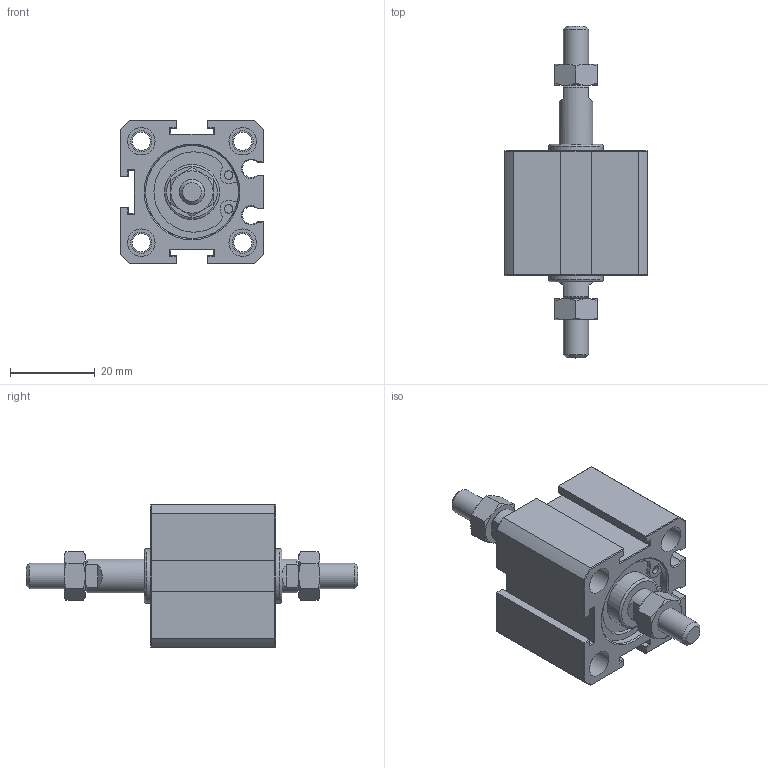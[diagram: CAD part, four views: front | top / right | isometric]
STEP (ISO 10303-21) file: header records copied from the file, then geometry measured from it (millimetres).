
FILE_DESCRIPTION(/* description */ (''),/* implementation_level */ '2;1');
FILE_NAME(/* name */ 'AJC-SW20X10W',/* time_stamp */ '2019-07-02T08:27:45+08:00',/* author */ ('JEFF HUANG'),/* organization */ ('TAIWAN AMAC CLAMP INDUSTRIAL CO., LTD.'),/* preprocessor_version */ 'ST-DEVELOPER v16.7',/* originating_system */ 'DEX',/* authorisation */ $);
FILE_SCHEMA (('AUTOMOTIVE_DESIGN {1 0 10303 214 3 1 1}'));
Length unit declared in the file: millimetre
Products named in the file (1): AJC-SW20X10W
Bounding box: 34 x 78.51 x 34 mm (x, y, z)
Volume: 28890.8 mm3; surface area: 11596.4 mm2
Topology: 1 solids, 1 shells, 263 faces, 575 edges, 346 vertices
Faces by surface type: plane 164, cylinder 53, cone 44, torus 2
Full cylindrical faces by diameter (mm): 2 x4, 4.3 x4, 5 x10, 6 x2, 6.5 x8, 8 x1, 13 x2, 22 x2
Entity records: 8757 total; most frequent: CARTESIAN_POINT 1372, DIRECTION 1138, ORIENTED_EDGE 1058, EDGE_CURVE 529, AXIS2_PLACEMENT_3D 425, EDGE_LOOP 342, FACE_BOUND 342, VERTEX_POINT 339
